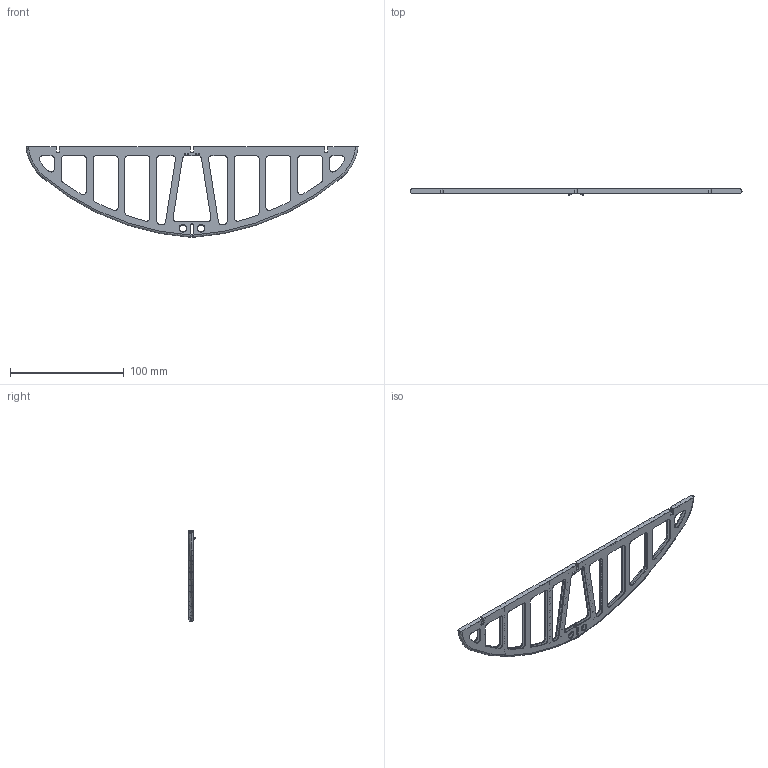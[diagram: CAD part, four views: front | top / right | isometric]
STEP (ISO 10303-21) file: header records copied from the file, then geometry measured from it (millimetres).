
FILE_DESCRIPTION (( 'STEP AP203' ), '1' );
FILE_NAME ('06-12-031-00.STEP', '2019-02-25T08:50:29', ( '' ), ( '' ), 'SwSTEP 2.0', 'SolidWorks 2014', '' );
FILE_SCHEMA (( 'CONFIG_CONTROL_DESIGN' ));
Length unit declared in the file: millimetre
Products named in the file (1): 06-12-031-00
Bounding box: 292 x 5.5 x 80 mm (x, y, z)
Volume: 12630.2 mm3; surface area: 36910.5 mm2
Topology: 1 solids, 1 shells, 2555 faces, 6994 edges, 4100 vertices
Faces by surface type: cylinder 1219, bspline 636, plane 462, torus 193, sphere 45
Entity records: 93061 total; most frequent: CARTESIAN_POINT 31261, ORIENTED_EDGE 13882, DIRECTION 13001, EDGE_CURVE 6941, AXIS2_PLACEMENT_3D 5400, VERTEX_POINT 4100, CIRCLE 3480, EDGE_LOOP 2643
